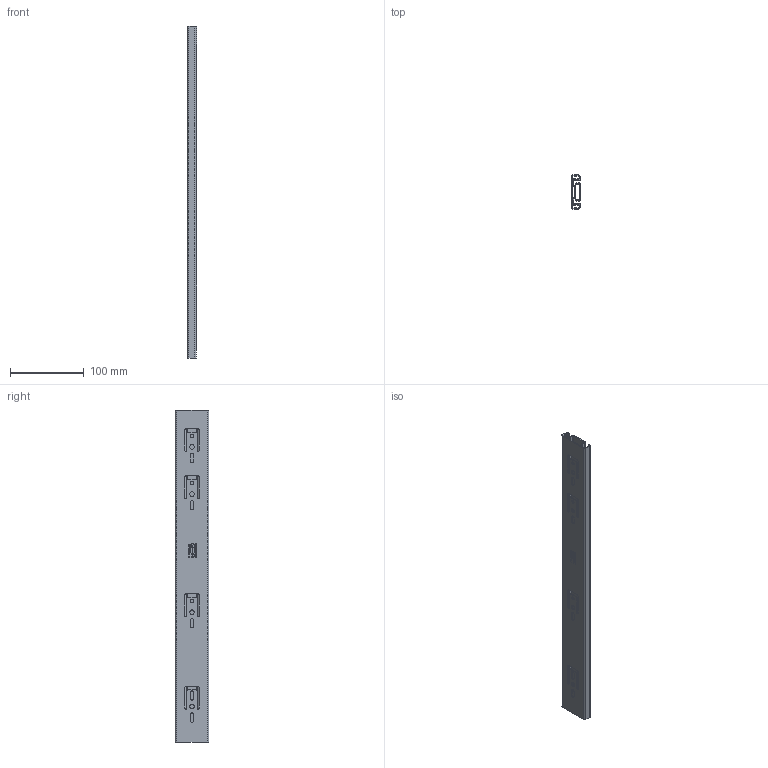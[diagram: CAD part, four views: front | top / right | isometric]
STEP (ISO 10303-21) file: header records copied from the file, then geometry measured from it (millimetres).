
FILE_DESCRIPTION (( 'STEP AP214' ), '1' );
FILE_NAME ('DS450STD-CLOSED.STEP', '2018-11-01T15:00:12', ( '' ), ( '' ), 'SwSTEP 2.0', 'SolidWorks 2017', '' );
FILE_SCHEMA (( 'AUTOMOTIVE_DESIGN' ));
Length unit declared in the file: millimetre
Products named in the file (4): DS-STD-2_450; DS-STD-1_450; DS450STD-CLOSED; DS-STD-3_450
Assembly tree (3 placements, depth 2):
  DS450STD-CLOSED
    DS-STD-3_450
    DS-STD-2_450
    DS-STD-1_450
Bounding box: 12.71 x 45.5 x 450 mm (x, y, z)
Volume: 83394.1 mm3; surface area: 137917.1 mm2
Topology: 3 solids, 3 shells, 823 faces, 2253 edges, 1502 vertices
Faces by surface type: plane 479, bspline 237, cylinder 107
Entity records: 27745 total; most frequent: CARTESIAN_POINT 8013, ORIENTED_EDGE 4506, DIRECTION 3177, EDGE_CURVE 2253, LINE 1565, VECTOR 1565, VERTEX_POINT 1502, EDGE_LOOP 939
